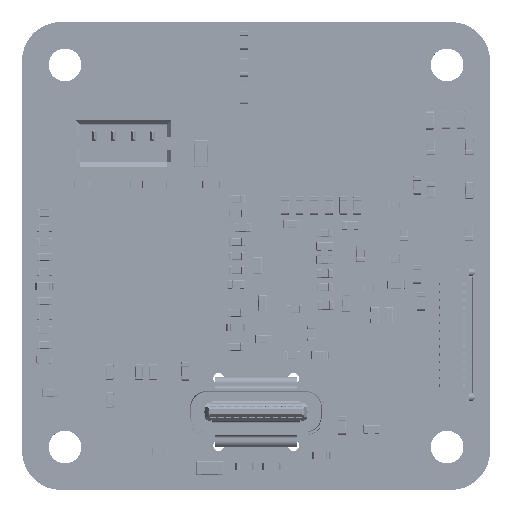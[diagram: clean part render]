
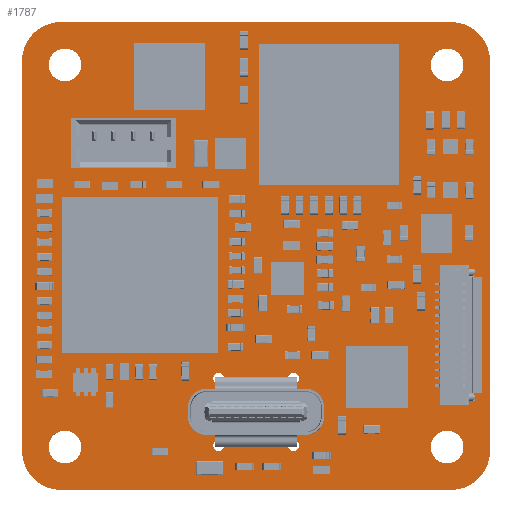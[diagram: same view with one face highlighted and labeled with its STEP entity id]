
A CAD part, top view. The second image highlights one B-rep face of the part: STEP entity #1787.
In plain terms, the highlighted planar face has unit normal (0, 0, 1).
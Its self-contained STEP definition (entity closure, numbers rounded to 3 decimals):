
#920 = VERTEX_POINT('',#921);
#921 = CARTESIAN_POINT('',(0.,2.5,1.002));
#927 = EDGE_CURVE('',#920,#928,#930,.T.);
#928 = VERTEX_POINT('',#929);
#929 = CARTESIAN_POINT('',(-0.006,27.5,1.002));
#930 = LINE('',#931,#932);
#931 = CARTESIAN_POINT('',(0.,2.5,1.002));
#932 = VECTOR('',#933,1.);
#933 = DIRECTION('',(0.,1.,0.));
#958 = EDGE_CURVE('',#928,#959,#961,.T.);
#959 = VERTEX_POINT('',#960);
#960 = CARTESIAN_POINT('',(2.5,30.,1.002));
#961 = CIRCLE('',#962,2.496);
#962 = AXIS2_PLACEMENT_3D('',#963,#964,#965);
#963 = CARTESIAN_POINT('',(2.49,27.504,1.002));
#964 = DIRECTION('',(0.,0.,-1.));
#965 = DIRECTION('',(-1.,-0.002,-0.));
#991 = EDGE_CURVE('',#959,#992,#994,.T.);
#992 = VERTEX_POINT('',#993);
#993 = CARTESIAN_POINT('',(27.5,30.,1.002));
#994 = LINE('',#995,#996);
#995 = CARTESIAN_POINT('',(2.5,30.,1.002));
#996 = VECTOR('',#997,1.);
#997 = DIRECTION('',(1.,0.,0.));
#1022 = EDGE_CURVE('',#992,#1023,#1025,.T.);
#1023 = VERTEX_POINT('',#1024);
#1024 = CARTESIAN_POINT('',(30.,27.5,1.002));
#1025 = CIRCLE('',#1026,2.499);
#1026 = AXIS2_PLACEMENT_3D('',#1027,#1028,#1029);
#1027 = CARTESIAN_POINT('',(27.501,27.501,1.002)
  );
#1028 = DIRECTION('',(0.,0.,-1.));
#1029 = DIRECTION('',(0.,1.,0.));
#1055 = EDGE_CURVE('',#1023,#1056,#1058,.T.);
#1056 = VERTEX_POINT('',#1057);
#1057 = CARTESIAN_POINT('',(30.,2.5,1.002));
#1058 = LINE('',#1059,#1060);
#1059 = CARTESIAN_POINT('',(30.,27.5,1.002));
#1060 = VECTOR('',#1061,1.);
#1061 = DIRECTION('',(0.,-1.,0.));
#1086 = EDGE_CURVE('',#1056,#1087,#1089,.T.);
#1087 = VERTEX_POINT('',#1088);
#1088 = CARTESIAN_POINT('',(27.5,0.,1.002));
#1089 = CIRCLE('',#1090,2.499);
#1090 = AXIS2_PLACEMENT_3D('',#1091,#1092,#1093);
#1091 = CARTESIAN_POINT('',(27.501,2.499,1.002));
#1092 = DIRECTION('',(0.,0.,-1.));
#1093 = DIRECTION('',(1.,0.,0.));
#1119 = EDGE_CURVE('',#1087,#1120,#1122,.T.);
#1120 = VERTEX_POINT('',#1121);
#1121 = CARTESIAN_POINT('',(2.5,0.,1.002));
#1122 = LINE('',#1123,#1124);
#1123 = CARTESIAN_POINT('',(27.5,0.,1.002));
#1124 = VECTOR('',#1125,1.);
#1125 = DIRECTION('',(-1.,0.,0.));
#1150 = EDGE_CURVE('',#1120,#920,#1151,.T.);
#1151 = CIRCLE('',#1152,2.499);
#1152 = AXIS2_PLACEMENT_3D('',#1153,#1154,#1155);
#1153 = CARTESIAN_POINT('',(2.499,2.499,1.002));
#1154 = DIRECTION('',(0.,0.,-1.));
#1155 = DIRECTION('',(0.,-1.,0.));
#1176 = VERTEX_POINT('',#1177);
#1177 = CARTESIAN_POINT('',(3.8,2.75,1.002));
#1183 = EDGE_CURVE('',#1176,#1176,#1184,.T.);
#1184 = CIRCLE('',#1185,1.05);
#1185 = AXIS2_PLACEMENT_3D('',#1186,#1187,#1188);
#1186 = CARTESIAN_POINT('',(2.75,2.75,1.002));
#1187 = DIRECTION('',(0.,0.,1.));
#1188 = DIRECTION('',(1.,0.,-0.));
#1209 = VERTEX_POINT('',#1210);
#1210 = CARTESIAN_POINT('',(11.58,5.,1.002));
#1216 = EDGE_CURVE('',#1209,#1209,#1217,.T.);
#1217 = CIRCLE('',#1218,0.33);
#1218 = AXIS2_PLACEMENT_3D('',#1219,#1220,#1221);
#1219 = CARTESIAN_POINT('',(11.25,5.,1.002));
#1220 = DIRECTION('',(0.,0.,1.));
#1221 = DIRECTION('',(1.,0.,-0.));
#1242 = VERTEX_POINT('',#1243);
#1243 = CARTESIAN_POINT('',(4.875,22.7,1.002));
#1249 = EDGE_CURVE('',#1242,#1242,#1250,.T.);
#1250 = CIRCLE('',#1251,0.25);
#1251 = AXIS2_PLACEMENT_3D('',#1252,#1253,#1254);
#1252 = CARTESIAN_POINT('',(4.625,22.7,1.002));
#1253 = DIRECTION('',(0.,0.,1.));
#1254 = DIRECTION('',(1.,0.,-0.));
#1275 = VERTEX_POINT('',#1276);
#1276 = CARTESIAN_POINT('',(6.125,22.7,1.002));
#1282 = EDGE_CURVE('',#1275,#1275,#1283,.T.);
#1283 = CIRCLE('',#1284,0.25);
#1284 = AXIS2_PLACEMENT_3D('',#1285,#1286,#1287);
#1285 = CARTESIAN_POINT('',(5.875,22.7,1.002));
#1286 = DIRECTION('',(0.,0.,1.));
#1287 = DIRECTION('',(1.,0.,-0.));
#1308 = VERTEX_POINT('',#1309);
#1309 = CARTESIAN_POINT('',(3.8,27.25,1.002));
#1315 = EDGE_CURVE('',#1308,#1308,#1316,.T.);
#1316 = CIRCLE('',#1317,1.05);
#1317 = AXIS2_PLACEMENT_3D('',#1318,#1319,#1320);
#1318 = CARTESIAN_POINT('',(2.75,27.25,1.002));
#1319 = DIRECTION('',(0.,0.,1.));
#1320 = DIRECTION('',(1.,0.,-0.));
#1341 = VERTEX_POINT('',#1342);
#1342 = CARTESIAN_POINT('',(8.625,22.7,1.002));
#1348 = EDGE_CURVE('',#1341,#1341,#1349,.T.);
#1349 = CIRCLE('',#1350,0.25);
#1350 = AXIS2_PLACEMENT_3D('',#1351,#1352,#1353);
#1351 = CARTESIAN_POINT('',(8.375,22.7,1.002));
#1352 = DIRECTION('',(0.,0.,1.));
#1353 = DIRECTION('',(1.,0.,-0.));
#1374 = VERTEX_POINT('',#1375);
#1375 = CARTESIAN_POINT('',(7.375,22.7,1.002));
#1381 = EDGE_CURVE('',#1374,#1374,#1382,.T.);
#1382 = CIRCLE('',#1383,0.25);
#1383 = AXIS2_PLACEMENT_3D('',#1384,#1385,#1386);
#1384 = CARTESIAN_POINT('',(7.125,22.7,1.002));
#1385 = DIRECTION('',(0.,0.,1.));
#1386 = DIRECTION('',(1.,0.,-0.));
#1407 = VERTEX_POINT('',#1408);
#1408 = CARTESIAN_POINT('',(12.95,2.85,1.002));
#1414 = EDGE_CURVE('',#1407,#1407,#1415,.T.);
#1415 = CIRCLE('',#1416,0.35);
#1416 = AXIS2_PLACEMENT_3D('',#1417,#1418,#1419);
#1417 = CARTESIAN_POINT('',(12.6,2.85,1.002));
#1418 = DIRECTION('',(0.,0.,1.));
#1419 = DIRECTION('',(1.,0.,-0.));
#1440 = VERTEX_POINT('',#1441);
#1441 = CARTESIAN_POINT('',(17.75,2.85,1.002));
#1447 = EDGE_CURVE('',#1440,#1440,#1448,.T.);
#1448 = CIRCLE('',#1449,0.35);
#1449 = AXIS2_PLACEMENT_3D('',#1450,#1451,#1452);
#1450 = CARTESIAN_POINT('',(17.4,2.85,1.002));
#1451 = DIRECTION('',(0.,0.,1.));
#1452 = DIRECTION('',(1.,0.,-0.));
#1473 = VERTEX_POINT('',#1474);
#1474 = CARTESIAN_POINT('',(28.3,2.75,1.002));
#1480 = EDGE_CURVE('',#1473,#1473,#1481,.T.);
#1481 = CIRCLE('',#1482,1.05);
#1482 = AXIS2_PLACEMENT_3D('',#1483,#1484,#1485);
#1483 = CARTESIAN_POINT('',(27.25,2.75,1.002));
#1484 = DIRECTION('',(0.,0.,1.));
#1485 = DIRECTION('',(1.,0.,-0.));
#1506 = VERTEX_POINT('',#1507);
#1507 = CARTESIAN_POINT('',(17.75,7.15,1.002));
#1513 = EDGE_CURVE('',#1506,#1506,#1514,.T.);
#1514 = CIRCLE('',#1515,0.35);
#1515 = AXIS2_PLACEMENT_3D('',#1516,#1517,#1518);
#1516 = CARTESIAN_POINT('',(17.4,7.15,1.002));
#1517 = DIRECTION('',(0.,0.,1.));
#1518 = DIRECTION('',(1.,0.,-0.));
#1539 = VERTEX_POINT('',#1540);
#1540 = CARTESIAN_POINT('',(12.95,7.15,1.002));
#1546 = EDGE_CURVE('',#1539,#1539,#1547,.T.);
#1547 = CIRCLE('',#1548,0.35);
#1548 = AXIS2_PLACEMENT_3D('',#1549,#1550,#1551);
#1549 = CARTESIAN_POINT('',(12.6,7.15,1.002));
#1550 = DIRECTION('',(0.,0.,1.));
#1551 = DIRECTION('',(1.,0.,-0.));
#1572 = VERTEX_POINT('',#1573);
#1573 = CARTESIAN_POINT('',(18.96,5.29,1.002));
#1579 = EDGE_CURVE('',#1572,#1580,#1582,.T.);
#1580 = VERTEX_POINT('',#1581);
#1581 = CARTESIAN_POINT('',(18.54,5.29,1.002));
#1582 = LINE('',#1583,#1584);
#1583 = CARTESIAN_POINT('',(18.96,5.29,1.002));
#1584 = VECTOR('',#1585,1.);
#1585 = DIRECTION('',(-1.,0.,0.));
#1610 = EDGE_CURVE('',#1580,#1611,#1613,.T.);
#1611 = VERTEX_POINT('',#1612);
#1612 = CARTESIAN_POINT('',(18.54,4.71,1.002));
#1613 = CIRCLE('',#1614,0.29);
#1614 = AXIS2_PLACEMENT_3D('',#1615,#1616,#1617);
#1615 = CARTESIAN_POINT('',(18.54,5.,1.002));
#1616 = DIRECTION('',(0.,0.,1.));
#1617 = DIRECTION('',(0.,1.,-0.));
#1643 = EDGE_CURVE('',#1611,#1644,#1646,.T.);
#1644 = VERTEX_POINT('',#1645);
#1645 = CARTESIAN_POINT('',(18.96,4.71,1.002));
#1646 = LINE('',#1647,#1648);
#1647 = CARTESIAN_POINT('',(18.54,4.71,1.002));
#1648 = VECTOR('',#1649,1.);
#1649 = DIRECTION('',(1.,0.,0.));
#1674 = EDGE_CURVE('',#1644,#1572,#1675,.T.);
#1675 = CIRCLE('',#1676,0.29);
#1676 = AXIS2_PLACEMENT_3D('',#1677,#1678,#1679);
#1677 = CARTESIAN_POINT('',(18.96,5.,1.002));
#1678 = DIRECTION('',(0.,0.,1.));
#1679 = DIRECTION('',(0.,-1.,0.));
#1700 = VERTEX_POINT('',#1701);
#1701 = CARTESIAN_POINT('',(28.3,27.25,1.002));
#1707 = EDGE_CURVE('',#1700,#1700,#1708,.T.);
#1708 = CIRCLE('',#1709,1.05);
#1709 = AXIS2_PLACEMENT_3D('',#1710,#1711,#1712);
#1710 = CARTESIAN_POINT('',(27.25,27.25,1.002));
#1711 = DIRECTION('',(0.,0.,1.));
#1712 = DIRECTION('',(1.,0.,-0.));
#1787 = ADVANCED_FACE('',(#1788,#1798,#1801,#1804,#1807,#1810,#1813,
    #1816,#1819,#1822,#1825,#1828,#1831,#1834,#1840),#1843,.F.);
#1788 = FACE_BOUND('',#1789,.F.);
#1789 = EDGE_LOOP('',(#1790,#1791,#1792,#1793,#1794,#1795,#1796,#1797));
#1790 = ORIENTED_EDGE('',*,*,#927,.T.);
#1791 = ORIENTED_EDGE('',*,*,#958,.T.);
#1792 = ORIENTED_EDGE('',*,*,#991,.T.);
#1793 = ORIENTED_EDGE('',*,*,#1022,.T.);
#1794 = ORIENTED_EDGE('',*,*,#1055,.T.);
#1795 = ORIENTED_EDGE('',*,*,#1086,.T.);
#1796 = ORIENTED_EDGE('',*,*,#1119,.T.);
#1797 = ORIENTED_EDGE('',*,*,#1150,.T.);
#1798 = FACE_BOUND('',#1799,.F.);
#1799 = EDGE_LOOP('',(#1800));
#1800 = ORIENTED_EDGE('',*,*,#1183,.T.);
#1801 = FACE_BOUND('',#1802,.F.);
#1802 = EDGE_LOOP('',(#1803));
#1803 = ORIENTED_EDGE('',*,*,#1216,.T.);
#1804 = FACE_BOUND('',#1805,.F.);
#1805 = EDGE_LOOP('',(#1806));
#1806 = ORIENTED_EDGE('',*,*,#1249,.T.);
#1807 = FACE_BOUND('',#1808,.F.);
#1808 = EDGE_LOOP('',(#1809));
#1809 = ORIENTED_EDGE('',*,*,#1282,.T.);
#1810 = FACE_BOUND('',#1811,.F.);
#1811 = EDGE_LOOP('',(#1812));
#1812 = ORIENTED_EDGE('',*,*,#1315,.T.);
#1813 = FACE_BOUND('',#1814,.F.);
#1814 = EDGE_LOOP('',(#1815));
#1815 = ORIENTED_EDGE('',*,*,#1348,.T.);
#1816 = FACE_BOUND('',#1817,.F.);
#1817 = EDGE_LOOP('',(#1818));
#1818 = ORIENTED_EDGE('',*,*,#1381,.T.);
#1819 = FACE_BOUND('',#1820,.F.);
#1820 = EDGE_LOOP('',(#1821));
#1821 = ORIENTED_EDGE('',*,*,#1414,.T.);
#1822 = FACE_BOUND('',#1823,.F.);
#1823 = EDGE_LOOP('',(#1824));
#1824 = ORIENTED_EDGE('',*,*,#1447,.T.);
#1825 = FACE_BOUND('',#1826,.F.);
#1826 = EDGE_LOOP('',(#1827));
#1827 = ORIENTED_EDGE('',*,*,#1480,.T.);
#1828 = FACE_BOUND('',#1829,.F.);
#1829 = EDGE_LOOP('',(#1830));
#1830 = ORIENTED_EDGE('',*,*,#1513,.T.);
#1831 = FACE_BOUND('',#1832,.F.);
#1832 = EDGE_LOOP('',(#1833));
#1833 = ORIENTED_EDGE('',*,*,#1546,.T.);
#1834 = FACE_BOUND('',#1835,.F.);
#1835 = EDGE_LOOP('',(#1836,#1837,#1838,#1839));
#1836 = ORIENTED_EDGE('',*,*,#1579,.T.);
#1837 = ORIENTED_EDGE('',*,*,#1610,.T.);
#1838 = ORIENTED_EDGE('',*,*,#1643,.T.);
#1839 = ORIENTED_EDGE('',*,*,#1674,.T.);
#1840 = FACE_BOUND('',#1841,.F.);
#1841 = EDGE_LOOP('',(#1842));
#1842 = ORIENTED_EDGE('',*,*,#1707,.T.);
#1843 = PLANE('',#1844);
#1844 = AXIS2_PLACEMENT_3D('',#1845,#1846,#1847);
#1845 = CARTESIAN_POINT('',(14.998,15.001,1.002)
  );
#1846 = DIRECTION('',(-0.,-0.,-1.));
#1847 = DIRECTION('',(-1.,0.,0.));
